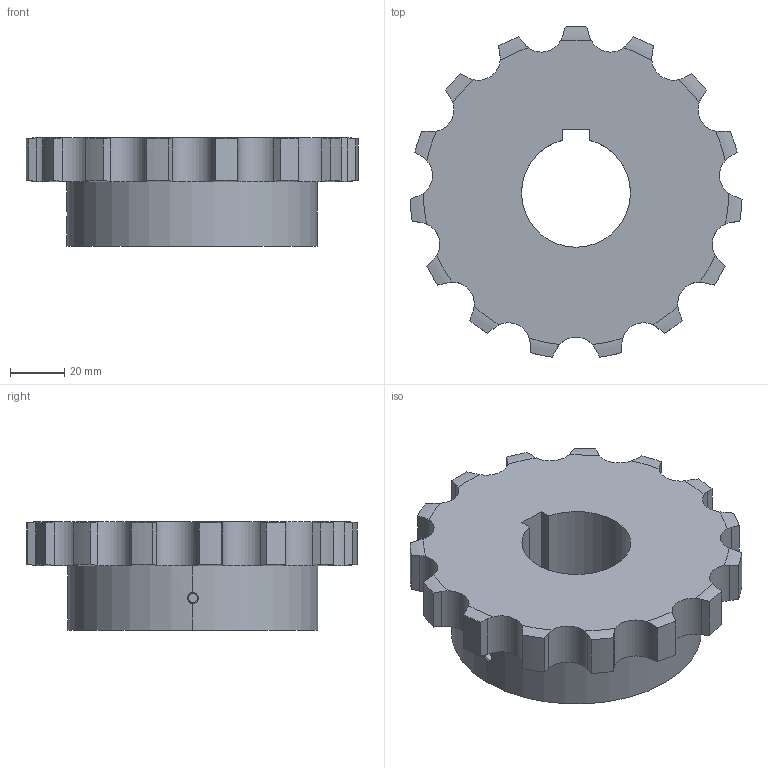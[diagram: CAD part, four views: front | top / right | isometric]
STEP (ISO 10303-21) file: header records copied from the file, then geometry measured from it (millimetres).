
FILE_DESCRIPTION((''),'2;1');
FILE_NAME('510-501-4015_PRT','2021-02-13T',('Brieden'),('Brieden'),'PRO/ENGINEER BY PARAMETRIC TECHNOLOGY CORPORATION, 2010160','PRO/ENGINEER BY PARAMETRIC TECHNOLOGY CORPORATION, 2010160','');
FILE_SCHEMA(('AUTOMOTIVE_DESIGN { 1 0 10303 214 1 1 1 1 }'));
Length unit declared in the file: millimetre
Products named in the file (1): 510-501-4015_PRT
Bounding box: 122.08 x 121.53 x 40 mm (x, y, z)
Volume: 271779.6 mm3; surface area: 38109.4 mm2
Topology: 1 solids, 1 shells, 111 faces, 315 edges, 208 vertices
Faces by surface type: cylinder 67, torus 30, plane 8, bspline 6
Entity records: 5406 total; most frequent: CARTESIAN_POINT 1685, ORIENTED_EDGE 630, DIRECTION 493, PRESENTATION_STYLE_ASSIGNMENT 316, STYLED_ITEM 316, CURVE_STYLE 315, EDGE_CURVE 315, VERTEX_POINT 208
